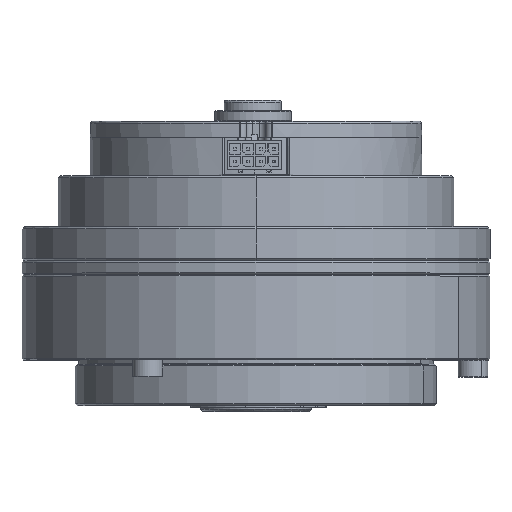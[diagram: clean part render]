
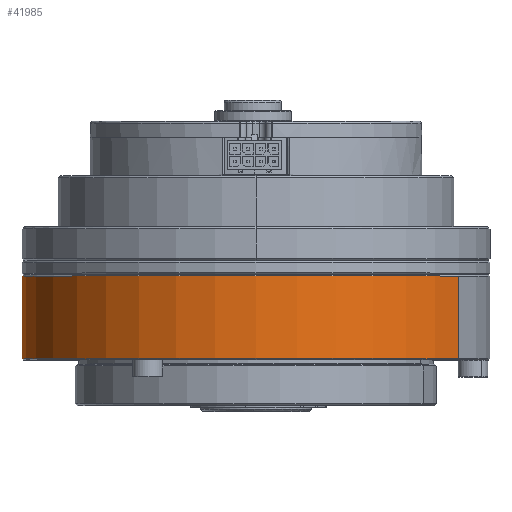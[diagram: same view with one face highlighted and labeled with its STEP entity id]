
A CAD part, top view. The second image highlights one B-rep face of the part: STEP entity #41985.
In plain terms, the highlighted cylindrical face has radius 55 mm (diameter 110 mm), a partial arc.
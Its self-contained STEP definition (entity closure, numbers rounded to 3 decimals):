
#946 = AXIS2_PLACEMENT_3D ( 'NONE', #85217, #128006, #13910 ) ;
#2761 = ORIENTED_EDGE ( 'NONE', *, *, #52210, .T. ) ;
#4448 = CARTESIAN_POINT ( 'NONE',  ( 0., -19.9, 0. ) ) ;
#5704 = VERTEX_POINT ( 'NONE', #100055 ) ;
#11078 = VERTEX_POINT ( 'NONE', #63698 ) ;
#13910 = DIRECTION ( 'NONE',  ( -0.866, 0., -0.5 ) ) ;
#14107 = DIRECTION ( 'NONE',  ( 0., 0., 1. ) ) ;
#17165 = AXIS2_PLACEMENT_3D ( 'NONE', #4448, #89040, #14107 ) ;
#20477 = EDGE_CURVE ( 'NONE', #43438, #84989, #39143, .T. ) ;
#20936 = CYLINDRICAL_SURFACE ( 'NONE', #946, 55. ) ;
#29589 = CIRCLE ( 'NONE', #33270, 55. ) ;
#30791 = CARTESIAN_POINT ( 'NONE',  ( -47.631, -0.5, -27.5 ) ) ;
#33270 = AXIS2_PLACEMENT_3D ( 'NONE', #66754, #89710, #130184 ) ;
#33683 = LINE ( 'NONE', #93945, #109584 ) ;
#39143 = LINE ( 'NONE', #117988, #44222 ) ;
#41985 = ADVANCED_FACE ( 'NONE', ( #101630 ), #20936, .T. ) ;
#43278 = CARTESIAN_POINT ( 'NONE',  ( -47.631, -19.9, -27.5 ) ) ;
#43438 = VERTEX_POINT ( 'NONE', #43278 ) ;
#44222 = VECTOR ( 'NONE', #53504, 1000. ) ;
#50482 = EDGE_CURVE ( 'NONE', #43438, #11078, #83971, .T. ) ;
#52210 = EDGE_CURVE ( 'NONE', #11078, #5704, #33683, .T. ) ;
#53504 = DIRECTION ( 'NONE',  ( 0., 1., 0. ) ) ;
#61728 = DIRECTION ( 'NONE',  ( 0., 1., 0. ) ) ;
#63698 = CARTESIAN_POINT ( 'NONE',  ( 47.631, -19.9, 27.5 ) ) ;
#66754 = CARTESIAN_POINT ( 'NONE',  ( 0., -0.5, 0. ) ) ;
#67402 = ORIENTED_EDGE ( 'NONE', *, *, #94727, .T. ) ;
#83075 = EDGE_LOOP ( 'NONE', ( #83728, #2761, #67402, #132993 ) ) ;
#83728 = ORIENTED_EDGE ( 'NONE', *, *, #50482, .T. ) ;
#83971 = CIRCLE ( 'NONE', #17165, 55. ) ;
#84989 = VERTEX_POINT ( 'NONE', #30791 ) ;
#85217 = CARTESIAN_POINT ( 'NONE',  ( 0., -0.2, 0. ) ) ;
#89040 = DIRECTION ( 'NONE',  ( 0., 1., 0. ) ) ;
#89710 = DIRECTION ( 'NONE',  ( 0., -1., 0. ) ) ;
#93945 = CARTESIAN_POINT ( 'NONE',  ( 47.631, -0.2, 27.5 ) ) ;
#94727 = EDGE_CURVE ( 'NONE', #5704, #84989, #29589, .T. ) ;
#100055 = CARTESIAN_POINT ( 'NONE',  ( 47.631, -0.5, 27.5 ) ) ;
#101630 = FACE_OUTER_BOUND ( 'NONE', #83075, .T. ) ;
#109584 = VECTOR ( 'NONE', #61728, 1000. ) ;
#117988 = CARTESIAN_POINT ( 'NONE',  ( -47.631, -0.2, -27.5 ) ) ;
#128006 = DIRECTION ( 'NONE',  ( 0., 1., 0. ) ) ;
#130184 = DIRECTION ( 'NONE',  ( 0., 0., -1. ) ) ;
#132993 = ORIENTED_EDGE ( 'NONE', *, *, #20477, .F. ) ;
